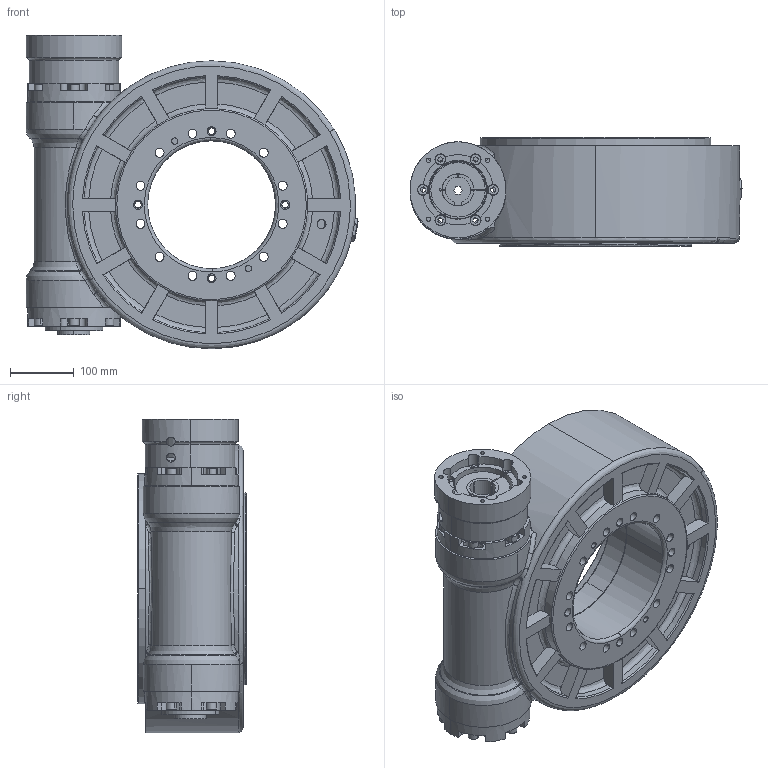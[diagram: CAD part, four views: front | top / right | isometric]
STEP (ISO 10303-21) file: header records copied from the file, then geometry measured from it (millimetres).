
FILE_DESCRIPTION (( 'STEP AP214' ), '1' );
FILE_NAME ('HC215HP-40R-110130-M8-32.STEP', '2022-05-24T03:14:50', ( 'Windows User' ), ( 'P R C' ), 'SwSTEP 2.0', 'SolidWorks 2020', '' );
FILE_SCHEMA (( 'AUTOMOTIVE_DESIGN' ));
Length unit declared in the file: millimetre
Products named in the file (1): HC215HP-40R-110130-M8-32
Bounding box: 518.85 x 170 x 490 mm (x, y, z)
Surface area: 1132967.4 mm2 (no closed solid volume)
Topology: 0 solids, 62 shells, 865 faces, 2629 edges, 1813 vertices
Faces by surface type: cylinder 394, plane 304, bspline 77, cone 53, torus 37
Entity records: 53612 total; most frequent: CARTESIAN_POINT 20436, DIRECTION 5080, ORIENTED_EDGE 4538, EDGE_CURVE 2627, AXIS2_PLACEMENT_3D 1943, VERTEX_POINT 1813, LINE 1194, VECTOR 1194
